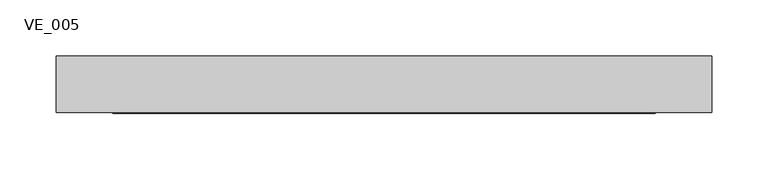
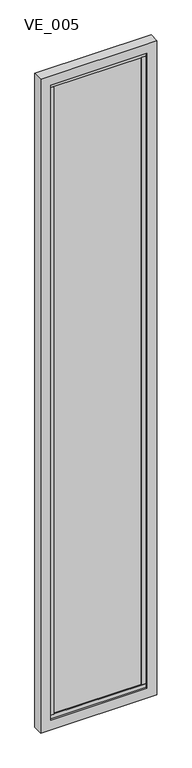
"""IFC4 building model written with IfcOpenShell, lengths in millimetres: plate geometry, TRP_CP_ARC_PF_RE : VE_005."""

from ifc_helpers import new_model, si_unit, frame, origin, place, context, project, spatial, polyline, outline, extrude, source, transform, mapped, element, save


def ve_005_494df69b(model_context):
    return source(origin(), model_context, "Body", "SweptSolid", [
        extrude(outline(polyline([(220.0, -10.0), (-220.0, -10.0), (-220.0, 10.0), (220.0, 10.0), (220.0, -10.0)])), frame((0.0, 0.0, 70.0), z_axis=(0.0, 0.0, 1.0), x_axis=(1.0, 0.0, 0.0)), (0.0, 0.0, 1.0), 3310.0),
        extrude(outline(polyline([(240.0, -15.0), (220.0, -15.0), (220.0, 15.0), (240.0, 15.0), (240.0, -15.0)])), frame((0.0, 0.0, 70.0), z_axis=(0.0, 0.0, 1.0), x_axis=(1.0, 0.0, 0.0)), (0.0, 0.0, 1.0), 3310.0),
        extrude(outline(polyline([(-220.0, -15.0), (-240.0, -15.0), (-240.0, 15.0), (-220.0, 15.0), (-220.0, -15.0)])), frame((0.0, 0.0, 70.0), z_axis=(0.0, 0.0, 1.0), x_axis=(1.0, 0.0, 0.0)), (0.0, 0.0, 1.0), 3310.0),
        extrude(outline(polyline([(240.0, -15.0), (-240.0, -15.0), (-240.0, 15.0), (240.0, 15.0), (240.0, -15.0)])), frame((0.0, 0.0, 50.0), z_axis=(0.0, 0.0, 1.0), x_axis=(1.0, 0.0, 0.0)), (0.0, 0.0, 1.0), 20.0),
        extrude(outline(polyline([(240.0, -15.0), (-240.0, -15.0), (-240.0, 15.0), (240.0, 15.0), (240.0, -15.0)])), frame((0.0, 0.0, 3380.0), z_axis=(0.0, 0.0, 1.0), x_axis=(1.0, 0.0, 0.0)), (0.0, 0.0, 1.0), 20.0),
        extrude(outline(polyline([(3450.0, 290.0), (3450.0, -290.0), (0.0, -290.0), (0.0, 290.0), (3450.0, 290.0)]), holes=[polyline([(50.0, 240.0), (50.0, -240.0), (3400.0, -240.0), (3400.0, 240.0), (50.0, 240.0)])]), frame((0.0, -25.0, 0.0), z_axis=(0.0, 1.0, 0.0), x_axis=(0.0, 0.0, 1.0)), (0.0, 0.0, 1.0), 50.0),
    ])


if __name__ == "__main__":
    model = new_model("IFC4")
    model_context = context("Model", 3, world=origin())
    ifc_project = project(units=[si_unit("LENGTHUNIT", "METRE", prefix="MILLI")], contexts=[model_context])
    site = spatial("IfcSite", under=ifc_project)
    building = spatial("IfcBuilding", under=site)
    placement = place(None, origin())
    ve_005_shape = ve_005_494df69b(model_context)
    element("IfcPlate", 1, ObjectType="TRP_CP_ARC_PF_RE : VE_005", at=placement, inside=building, context=model_context, shape_type="MappedRepresentation", body=[
        mapped(ve_005_shape, transform((0.0, 0.0, 0.0), x_axis=(1.0, 0.0, 0.0), y_axis=(0.0, 1.0, 0.0), z_axis=(0.0, 0.0, 1.0))),
    ])
    save(model, "model.ifc")
